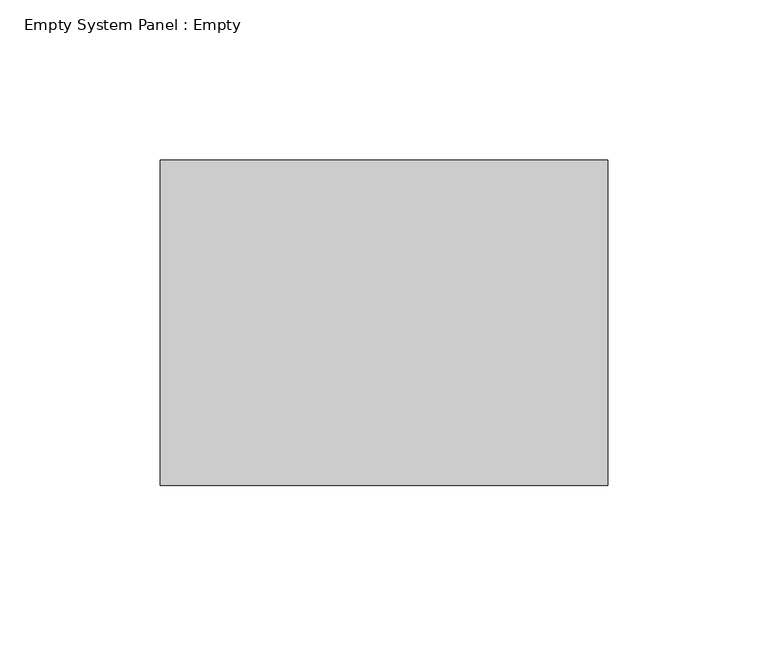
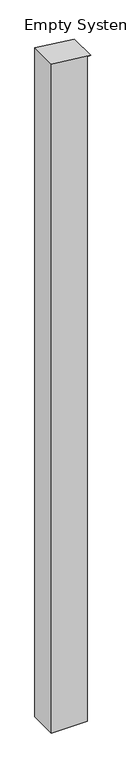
"""IFC4 building model written with IfcOpenShell, lengths in millimetres: plate geometry, Empty System Panel : Empty."""

from ifc_helpers import new_model, si_unit, frame, origin, place, context, project, spatial, polyline, outline, extrude, source, transform, mapped, element, save


def empty_system_panel_empty_e0945a2c(model_context):
    return source(origin(), model_context, "Body", "SweptSolid", [
        extrude(outline(polyline([(0.0, -69.85), (0.0, 57.15), (2502.7174251, 57.15), (2502.7174251, 69.85), (2518.3426151, -69.85), (0.0, -69.85)])), frame((0.0, -50.8, 0.0), z_axis=(0.0, 1.0, 0.0), x_axis=(0.0, 0.0, 1.0)), (0.0, 0.0, 1.0), 101.6),
    ])


if __name__ == "__main__":
    model = new_model("IFC4")
    model_context = context("Model", 3, world=origin())
    ifc_project = project(units=[si_unit("LENGTHUNIT", "METRE", prefix="MILLI")], contexts=[model_context])
    site = spatial("IfcSite", under=ifc_project)
    building = spatial("IfcBuilding", under=site)
    placement = place(None, origin())
    empty_system_panel_empty_shape = empty_system_panel_empty_e0945a2c(model_context)
    element("IfcPlate", 1, ObjectType="Empty System Panel : Empty", at=placement, inside=building, context=model_context, shape_type="MappedRepresentation", body=[
        mapped(empty_system_panel_empty_shape, transform((0.0, 0.0, 0.0), x_axis=(1.0, 0.0, 0.0), y_axis=(0.0, 1.0, 0.0), z_axis=(0.0, 0.0, 1.0))),
    ])
    save(model, "model.ifc")
